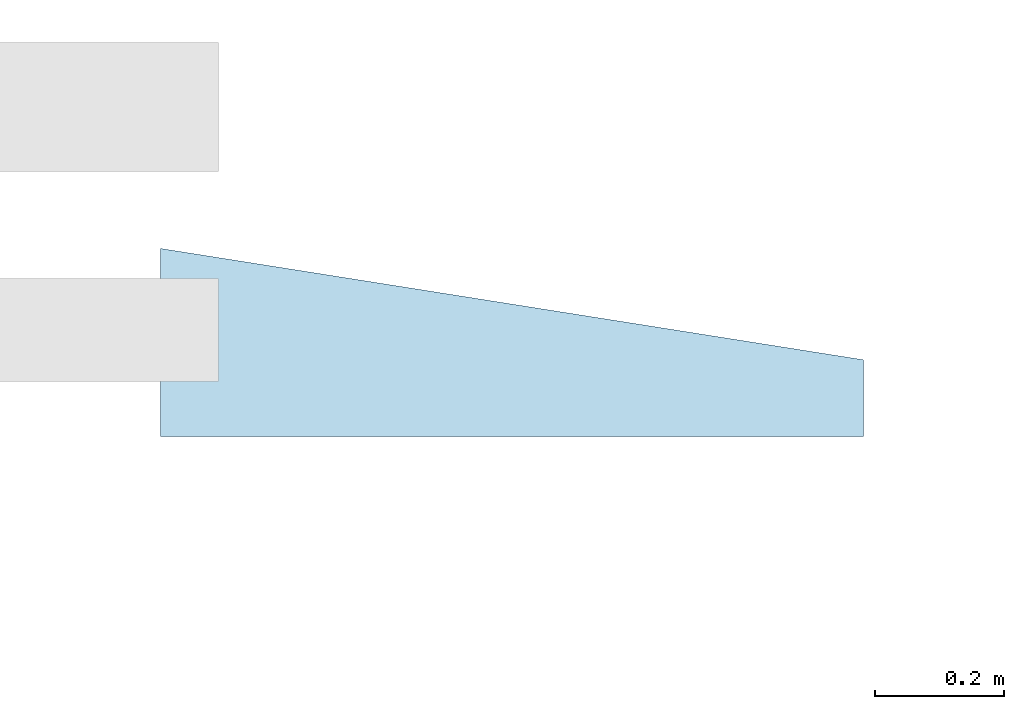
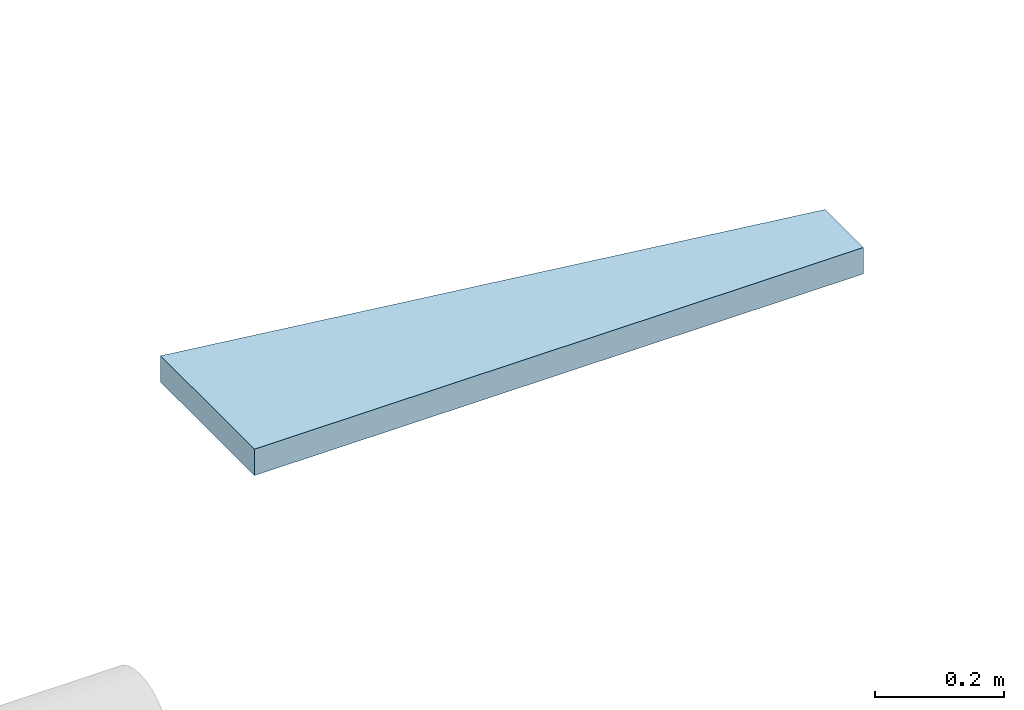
# One storey, part 1 of 7: 1 slab.
"""IFC2X3 building model written with IfcOpenShell, lengths in centimetres."""

from ifc_helpers import new_model, entity, si_unit, converted_unit, derived_unit, direction, frame, origin, place, context, subcontext, project, spatial, polyline, outline, extrude, material, layer, layer_set, layer_usage, element, save


model = new_model("IFC2X3")

# Units and contexts
model_context = context("Model", 3, precision=0.001, world=origin(), true_north=direction((6.12303176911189e-17, 1.0)))
body_context = subcontext(model_context, "Body", "Model", "MODEL_VIEW")
ifc_project = project(units=[si_unit("LENGTHUNIT", "METRE", prefix="CENTI"), si_unit("AREAUNIT", "SQUARE_METRE"), si_unit("VOLUMEUNIT", "CUBIC_METRE"), converted_unit("PLANEANGLEUNIT", "DEGREE", entity("IfcRatioMeasure", 0.0174532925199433), si_unit("PLANEANGLEUNIT", "RADIAN"), dimensions=[0, 0, 0, 0, 0, 0, 0]), si_unit("MASSUNIT", "GRAM", prefix="KILO"), derived_unit("MASSDENSITYUNIT", [(si_unit("MASSUNIT", "GRAM", prefix="KILO"), 1), (si_unit("LENGTHUNIT", "METRE"), -3)]), si_unit("TIMEUNIT", "SECOND"), si_unit("FREQUENCYUNIT", "HERTZ"), si_unit("THERMODYNAMICTEMPERATUREUNIT", "DEGREE_CELSIUS"), derived_unit("THERMALTRANSMITTANCEUNIT", [(si_unit("MASSUNIT", "GRAM", prefix="KILO"), 1), (si_unit("THERMODYNAMICTEMPERATUREUNIT", "KELVIN"), -1), (si_unit("TIMEUNIT", "SECOND"), -3)]), derived_unit("VOLUMETRICFLOWRATEUNIT", [(si_unit("LENGTHUNIT", "METRE"), 3), (si_unit("TIMEUNIT", "SECOND"), -1)]), si_unit("ELECTRICCURRENTUNIT", "AMPERE"), si_unit("ELECTRICVOLTAGEUNIT", "VOLT"), si_unit("POWERUNIT", "WATT"), si_unit("FORCEUNIT", "NEWTON"), si_unit("ILLUMINANCEUNIT", "LUX"), si_unit("LUMINOUSFLUXUNIT", "LUMEN"), si_unit("LUMINOUSINTENSITYUNIT", "CANDELA"), derived_unit("USERDEFINED", [(si_unit("MASSUNIT", "GRAM", prefix="KILO"), -1), (si_unit("LENGTHUNIT", "METRE"), -2), (si_unit("TIMEUNIT", "SECOND"), 3), (si_unit("LUMINOUSFLUXUNIT", "LUMEN"), 1)]), derived_unit("LINEARVELOCITYUNIT", [(si_unit("LENGTHUNIT", "METRE"), 1), (si_unit("TIMEUNIT", "SECOND"), -1)]), si_unit("PRESSUREUNIT", "PASCAL"), derived_unit("USERDEFINED", [(si_unit("LENGTHUNIT", "METRE"), -2), (si_unit("MASSUNIT", "GRAM", prefix="KILO"), 1), (si_unit("TIMEUNIT", "SECOND"), -2)])], contexts=[model_context])

# Site, building, storey
site_placement = place(None, origin())
site = spatial("IfcSite", under=ifc_project, at=site_placement, Name="Default", CompositionType="ELEMENT")
building_placement = place(site_placement, origin())
building = spatial("IfcBuilding", under=site, at=building_placement, Name="CAGE 03", CompositionType="ELEMENT")
storey_placement = place(building_placement, origin())
storey = spatial("IfcBuildingStorey", under=building, at=storey_placement, Name="RDC", CompositionType="ELEMENT", Elevation=-1.08286712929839e-13)

# Slab
ifc_material = material(Name="Béton, C25/30")
ifc_layer = layer(ifc_material, 5.0)
ifc_layer_set = layer_set([ifc_layer], Name="Sol:Dalle Béton - 5 cm")
ifc_layer_usage = layer_usage(ifc_layer_set, "AXIS3", "POSITIVE", 0.0)
slab_placement = place(storey_placement, origin())
element("IfcSlab", 1, at=slab_placement, inside=storey, material=ifc_layer_usage, Name="Sol:Dalle Béton - 5 cm", ObjectType="Sol:Dalle Béton - 5 cm", PredefinedType="FLOOR", context=body_context, shape_type="SweptSolid", body=[
    extrude(outline(polyline([(-10.2543337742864, -54.5000000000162), (18.8862857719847, -54.5000000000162), (1.62238177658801, 54.5000000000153), (-10.2543337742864, 54.5000000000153), (-10.2543337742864, -54.5000000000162)])), frame((7087.86582014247, 4794.76607658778, 5.0), z_axis=(0.0, 0.0, -1.0), x_axis=(0.0, 1.0, 0.0)), (0.0, 0.0, 1.0), 5.0),
])

save(model, "model.ifc")
